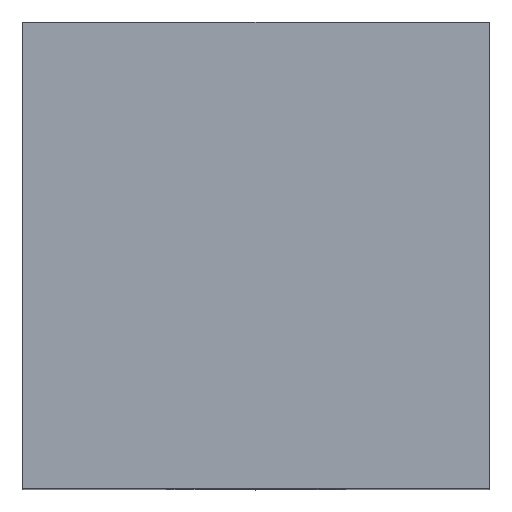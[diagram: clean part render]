
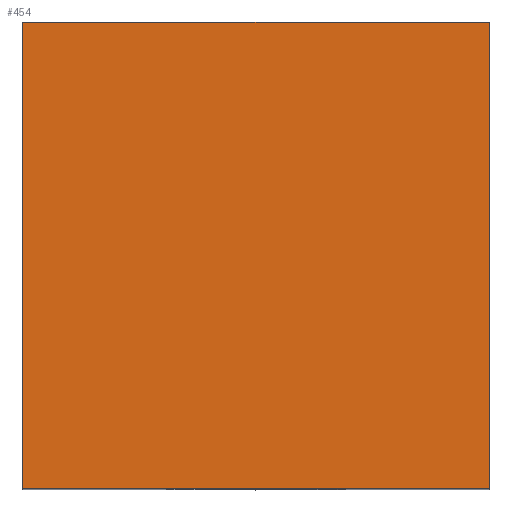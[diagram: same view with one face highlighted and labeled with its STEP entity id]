
A CAD part, top view. The second image highlights one B-rep face of the part: STEP entity #454.
In plain terms, the highlighted planar face has unit normal (0, 0, 1).
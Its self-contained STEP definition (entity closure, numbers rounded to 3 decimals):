
#44 = PLANE('',#45);
#45 = AXIS2_PLACEMENT_3D('',#46,#47,#48);
#46 = CARTESIAN_POINT('',(6.,-6.,0.));
#47 = DIRECTION('',(1.,0.,-0.));
#48 = DIRECTION('',(0.,0.,1.));
#73 = PLANE('',#74);
#74 = AXIS2_PLACEMENT_3D('',#75,#76,#77);
#75 = CARTESIAN_POINT('',(0.,-6.,0.));
#76 = DIRECTION('',(0.,-1.,0.));
#77 = DIRECTION('',(1.,0.,0.));
#101 = PLANE('',#102);
#102 = AXIS2_PLACEMENT_3D('',#103,#104,#105);
#103 = CARTESIAN_POINT('',(-6.,-6.,0.));
#104 = DIRECTION('',(1.,0.,-0.));
#105 = DIRECTION('',(0.,0.,1.));
#128 = PLANE('',#129);
#129 = AXIS2_PLACEMENT_3D('',#130,#131,#132);
#130 = CARTESIAN_POINT('',(0.,6.,0.));
#131 = DIRECTION('',(0.,-1.,0.));
#132 = DIRECTION('',(1.,0.,0.));
#144 = VERTEX_POINT('',#145);
#145 = CARTESIAN_POINT('',(6.,-6.,16.));
#168 = VERTEX_POINT('',#169);
#169 = CARTESIAN_POINT('',(6.,6.,16.));
#190 = EDGE_CURVE('',#144,#168,#191,.T.);
#191 = SURFACE_CURVE('',#192,(#196,#203),.PCURVE_S1.);
#192 = LINE('',#193,#194);
#193 = CARTESIAN_POINT('',(6.,-6.,16.));
#194 = VECTOR('',#195,1.);
#195 = DIRECTION('',(-0.,1.,0.));
#196 = PCURVE('',#44,#197);
#197 = DEFINITIONAL_REPRESENTATION('',(#198),#202);
#198 = LINE('',#199,#200);
#199 = CARTESIAN_POINT('',(16.,0.));
#200 = VECTOR('',#201,1.);
#201 = DIRECTION('',(0.,-1.));
#202 = ( GEOMETRIC_REPRESENTATION_CONTEXT(2) 
PARAMETRIC_REPRESENTATION_CONTEXT() REPRESENTATION_CONTEXT('2D SPACE',''
  ) );
#203 = PCURVE('',#204,#209);
#204 = PLANE('',#205);
#205 = AXIS2_PLACEMENT_3D('',#206,#207,#208);
#206 = CARTESIAN_POINT('',(-6.,-6.,16.));
#207 = DIRECTION('',(0.,0.,1.));
#208 = DIRECTION('',(1.,0.,-0.));
#209 = DEFINITIONAL_REPRESENTATION('',(#210),#214);
#210 = LINE('',#211,#212);
#211 = CARTESIAN_POINT('',(12.,0.));
#212 = VECTOR('',#213,1.);
#213 = DIRECTION('',(0.,1.));
#214 = ( GEOMETRIC_REPRESENTATION_CONTEXT(2) 
PARAMETRIC_REPRESENTATION_CONTEXT() REPRESENTATION_CONTEXT('2D SPACE',''
  ) );
#221 = EDGE_CURVE('',#222,#168,#224,.T.);
#222 = VERTEX_POINT('',#223);
#223 = CARTESIAN_POINT('',(-6.,6.,16.));
#224 = SURFACE_CURVE('',#225,(#229,#236),.PCURVE_S1.);
#225 = LINE('',#226,#227);
#226 = CARTESIAN_POINT('',(-6.,6.,16.));
#227 = VECTOR('',#228,1.);
#228 = DIRECTION('',(1.,0.,-0.));
#229 = PCURVE('',#128,#230);
#230 = DEFINITIONAL_REPRESENTATION('',(#231),#235);
#231 = LINE('',#232,#233);
#232 = CARTESIAN_POINT('',(-6.,16.));
#233 = VECTOR('',#234,1.);
#234 = DIRECTION('',(1.,0.));
#235 = ( GEOMETRIC_REPRESENTATION_CONTEXT(2) 
PARAMETRIC_REPRESENTATION_CONTEXT() REPRESENTATION_CONTEXT('2D SPACE',''
  ) );
#236 = PCURVE('',#204,#237);
#237 = DEFINITIONAL_REPRESENTATION('',(#238),#242);
#238 = LINE('',#239,#240);
#239 = CARTESIAN_POINT('',(0.,12.));
#240 = VECTOR('',#241,1.);
#241 = DIRECTION('',(1.,0.));
#242 = ( GEOMETRIC_REPRESENTATION_CONTEXT(2) 
PARAMETRIC_REPRESENTATION_CONTEXT() REPRESENTATION_CONTEXT('2D SPACE',''
  ) );
#331 = VERTEX_POINT('',#332);
#332 = CARTESIAN_POINT('',(-6.,-6.,16.));
#355 = EDGE_CURVE('',#331,#222,#356,.T.);
#356 = SURFACE_CURVE('',#357,(#361,#368),.PCURVE_S1.);
#357 = LINE('',#358,#359);
#358 = CARTESIAN_POINT('',(-6.,-6.,16.));
#359 = VECTOR('',#360,1.);
#360 = DIRECTION('',(-0.,1.,0.));
#361 = PCURVE('',#101,#362);
#362 = DEFINITIONAL_REPRESENTATION('',(#363),#367);
#363 = LINE('',#364,#365);
#364 = CARTESIAN_POINT('',(16.,0.));
#365 = VECTOR('',#366,1.);
#366 = DIRECTION('',(0.,-1.));
#367 = ( GEOMETRIC_REPRESENTATION_CONTEXT(2) 
PARAMETRIC_REPRESENTATION_CONTEXT() REPRESENTATION_CONTEXT('2D SPACE',''
  ) );
#368 = PCURVE('',#204,#369);
#369 = DEFINITIONAL_REPRESENTATION('',(#370),#374);
#370 = LINE('',#371,#372);
#371 = CARTESIAN_POINT('',(0.,0.));
#372 = VECTOR('',#373,1.);
#373 = DIRECTION('',(0.,1.));
#374 = ( GEOMETRIC_REPRESENTATION_CONTEXT(2) 
PARAMETRIC_REPRESENTATION_CONTEXT() REPRESENTATION_CONTEXT('2D SPACE',''
  ) );
#381 = EDGE_CURVE('',#331,#144,#382,.T.);
#382 = SURFACE_CURVE('',#383,(#387,#394),.PCURVE_S1.);
#383 = LINE('',#384,#385);
#384 = CARTESIAN_POINT('',(-6.,-6.,16.));
#385 = VECTOR('',#386,1.);
#386 = DIRECTION('',(1.,0.,-0.));
#387 = PCURVE('',#73,#388);
#388 = DEFINITIONAL_REPRESENTATION('',(#389),#393);
#389 = LINE('',#390,#391);
#390 = CARTESIAN_POINT('',(-6.,16.));
#391 = VECTOR('',#392,1.);
#392 = DIRECTION('',(1.,0.));
#393 = ( GEOMETRIC_REPRESENTATION_CONTEXT(2) 
PARAMETRIC_REPRESENTATION_CONTEXT() REPRESENTATION_CONTEXT('2D SPACE',''
  ) );
#394 = PCURVE('',#204,#395);
#395 = DEFINITIONAL_REPRESENTATION('',(#396),#400);
#396 = LINE('',#397,#398);
#397 = CARTESIAN_POINT('',(0.,0.));
#398 = VECTOR('',#399,1.);
#399 = DIRECTION('',(1.,0.));
#400 = ( GEOMETRIC_REPRESENTATION_CONTEXT(2) 
PARAMETRIC_REPRESENTATION_CONTEXT() REPRESENTATION_CONTEXT('2D SPACE',''
  ) );
#454 = ADVANCED_FACE('',(#455),#204,.T.);
#455 = FACE_BOUND('',#456,.T.);
#456 = EDGE_LOOP('',(#457,#458,#459,#460));
#457 = ORIENTED_EDGE('',*,*,#355,.F.);
#458 = ORIENTED_EDGE('',*,*,#381,.T.);
#459 = ORIENTED_EDGE('',*,*,#190,.T.);
#460 = ORIENTED_EDGE('',*,*,#221,.F.);
